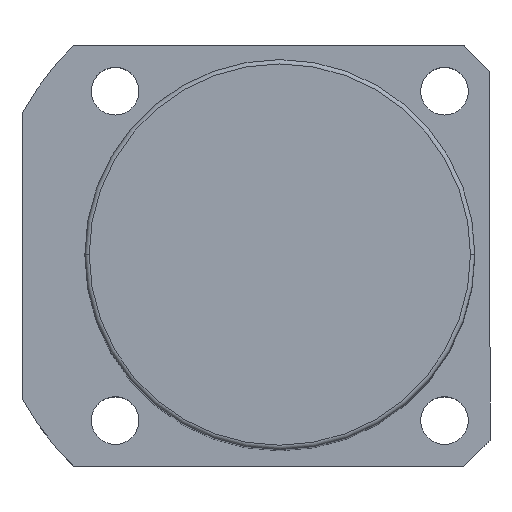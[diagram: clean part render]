
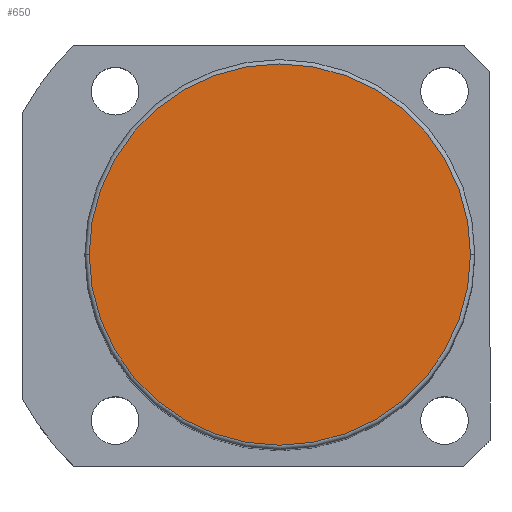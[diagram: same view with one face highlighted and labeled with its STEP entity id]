
A CAD part, top view. The second image highlights one B-rep face of the part: STEP entity #650.
In plain terms, the highlighted planar face has unit normal (0, 0, 1).
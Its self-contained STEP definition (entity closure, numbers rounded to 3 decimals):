
#52 = AXIS2_PLACEMENT_3D ( 'NONE', #1537, #144, #290 ) ;
#144 = DIRECTION ( 'NONE',  ( 0., 0., 1. ) ) ;
#165 = EDGE_LOOP ( 'NONE', ( #1620, #390 ) ) ;
#197 = DIRECTION ( 'NONE',  ( 1., 0., 0. ) ) ;
#283 = VERTEX_POINT ( 'NONE', #1042 ) ;
#290 = DIRECTION ( 'NONE',  ( 1., 0., 0. ) ) ;
#323 = CIRCLE ( 'NONE', #1657, 44. ) ;
#345 = CIRCLE ( 'NONE', #1495, 44. ) ;
#390 = ORIENTED_EDGE ( 'NONE', *, *, #1447, .T. ) ;
#393 = CARTESIAN_POINT ( 'NONE',  ( -44., 0., 186.5 ) ) ;
#504 = EDGE_CURVE ( 'NONE', #283, #1045, #323, .T. ) ;
#650 = ADVANCED_FACE ( 'NONE', ( #913 ), #1251, .T. ) ;
#666 = DIRECTION ( 'NONE',  ( 1., 0., 0. ) ) ;
#672 = DIRECTION ( 'NONE',  ( 0., 0., 1. ) ) ;
#768 = CARTESIAN_POINT ( 'NONE',  ( 0., 0., 186.5 ) ) ;
#913 = FACE_OUTER_BOUND ( 'NONE', #165, .T. ) ;
#1042 = CARTESIAN_POINT ( 'NONE',  ( 44., 0., 186.5 ) ) ;
#1045 = VERTEX_POINT ( 'NONE', #393 ) ;
#1251 = PLANE ( 'NONE',  #52 ) ;
#1342 = DIRECTION ( 'NONE',  ( 0., 0., 1. ) ) ;
#1447 = EDGE_CURVE ( 'NONE', #1045, #283, #345, .T. ) ;
#1495 = AXIS2_PLACEMENT_3D ( 'NONE', #768, #1342, #197 ) ;
#1537 = CARTESIAN_POINT ( 'NONE',  ( 0., 0., 186.5 ) ) ;
#1620 = ORIENTED_EDGE ( 'NONE', *, *, #504, .T. ) ;
#1646 = CARTESIAN_POINT ( 'NONE',  ( 0., 0., 186.5 ) ) ;
#1657 = AXIS2_PLACEMENT_3D ( 'NONE', #1646, #672, #666 ) ;
